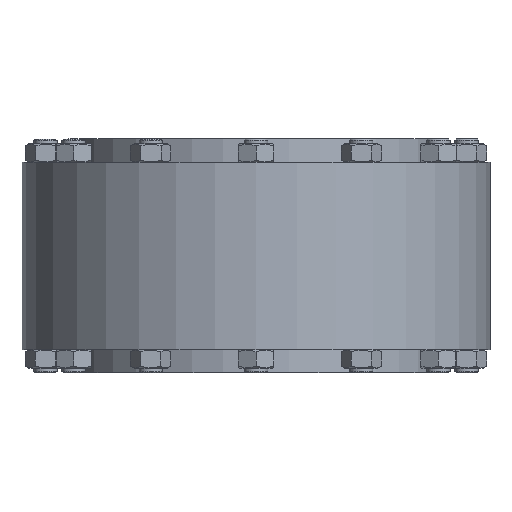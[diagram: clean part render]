
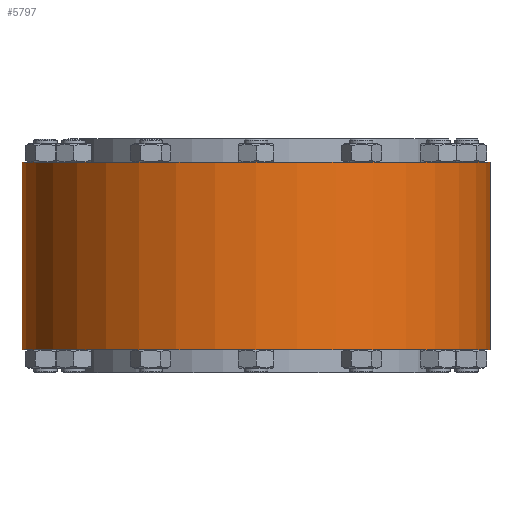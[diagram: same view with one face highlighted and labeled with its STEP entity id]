
A CAD part, front view. The second image highlights one B-rep face of the part: STEP entity #5797.
In plain terms, the highlighted cylindrical face has radius 200 mm (diameter 400 mm), a full revolution.
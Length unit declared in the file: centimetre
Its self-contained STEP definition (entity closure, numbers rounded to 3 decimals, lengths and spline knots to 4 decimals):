
#1050=FACE_BOUND('',#1938,.T.);
#1436=FACE_OUTER_BOUND('',#1937,.T.);
#1937=EDGE_LOOP('',(#4509));
#1938=EDGE_LOOP('',(#4510));
#2444=CIRCLE('',#6344,20.);
#2445=CIRCLE('',#6345,20.);
#2872=VERTEX_POINT('',#9372);
#2873=VERTEX_POINT('',#9374);
#3498=EDGE_CURVE('',#2872,#2872,#2444,.T.);
#3499=EDGE_CURVE('',#2873,#2873,#2445,.T.);
#4509=ORIENTED_EDGE('',*,*,#3498,.F.);
#4510=ORIENTED_EDGE('',*,*,#3499,.F.);
#5178=CYLINDRICAL_SURFACE('',#6343,20.);
#5797=ADVANCED_FACE('',(#1436,#1050),#5178,.T.);
#6343=AXIS2_PLACEMENT_3D('',#9371,#7401,#7402);
#6344=AXIS2_PLACEMENT_3D('',#9373,#7403,#7404);
#6345=AXIS2_PLACEMENT_3D('',#9375,#7405,#7406);
#7401=DIRECTION('center_axis',(0.,0.,
-1.));
#7402=DIRECTION('ref_axis',(0.,1.,0.));
#7403=DIRECTION('center_axis',(0.,0.,
1.));
#7404=DIRECTION('ref_axis',(0.,-1.,0.));
#7405=DIRECTION('center_axis',(0.,0.,
-1.));
#7406=DIRECTION('ref_axis',(-1.,0.,0.));
#9371=CARTESIAN_POINT('Origin',(0.,0.,
-7.425));
#9372=CARTESIAN_POINT('',(-20.,0.,8.));
#9373=CARTESIAN_POINT('Origin',(0.,0.,
8.));
#9374=CARTESIAN_POINT('',(-20.,0.,-8.));
#9375=CARTESIAN_POINT('Origin',(0.,0.,
-8.));
